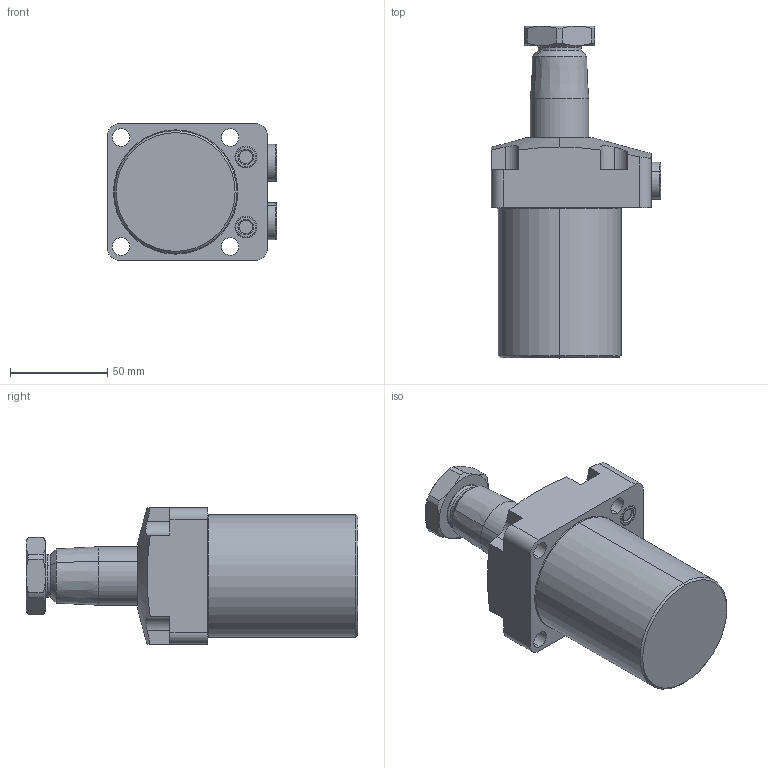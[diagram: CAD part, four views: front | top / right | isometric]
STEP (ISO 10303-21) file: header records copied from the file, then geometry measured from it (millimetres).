
FILE_DESCRIPTION(/* description */ (''),/* implementation_level */ '2;1');
FILE_NAME(/* name */ 'TRC10-RN30.stp',/* time_stamp */ '2025-01-04T09:39:46+08:00',/* author */ (''),/* organization */ (''),/* preprocessor_version */ 'ST-DEVELOPER v16.7',/* originating_system */ 'SIEMENS PLM Software NX 12.0',/* authorisation */ '');
FILE_SCHEMA (('AUTOMOTIVE_DESIGN { 1 0 10303 214 3 1 1 1 }'));
Length unit declared in the file: millimetre
Products named in the file (5): TRC10-RN30-04; TRC10-RN30-03; TRC10-RN30-02; TRC10-RN30-01; CTU10-RN30_step
Assembly tree (5 placements, depth 2):
  CTU10-RN30_step
    TRC10-RN30-01
    TRC10-RN30-02
    TRC10-RN30-03
    TRC10-RN30-04  x2
Bounding box: 86.8 x 170.3 x 70 mm (x, y, z)
Volume: 441937.7 mm3; surface area: 53791.2 mm2
Topology: 5 solids, 7 shells, 203 faces, 465 edges, 288 vertices
Faces by surface type: cylinder 73, plane 67, cone 40, torus 22, sphere 1
Entity records: 5410 total; most frequent: CARTESIAN_POINT 1086, DIRECTION 938, ORIENTED_EDGE 836, EDGE_CURVE 418, AXIS2_PLACEMENT_3D 386, VERTEX_POINT 260, EDGE_LOOP 206, CIRCLE 199
